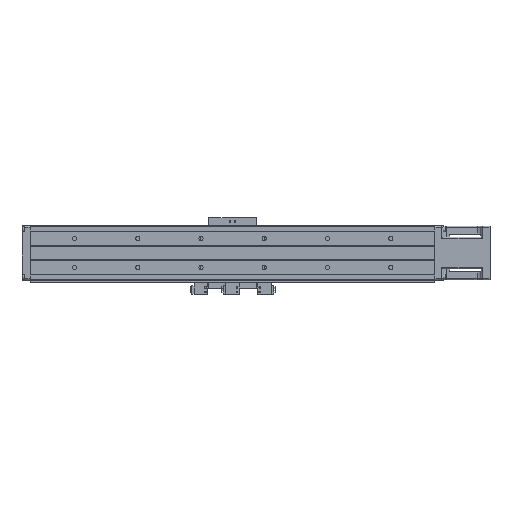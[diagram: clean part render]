
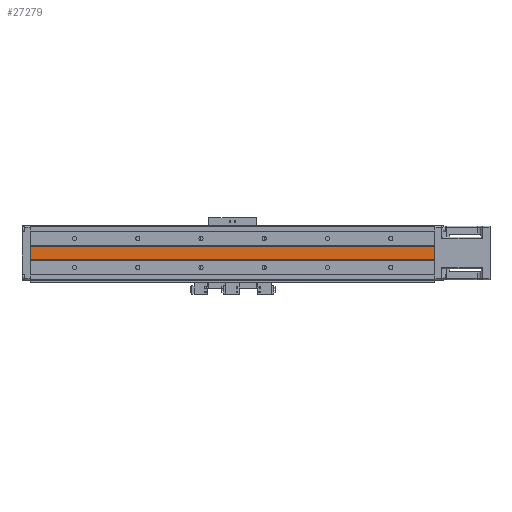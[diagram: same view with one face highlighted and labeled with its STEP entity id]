
A CAD part, front view. The second image highlights one B-rep face of the part: STEP entity #27279.
In plain terms, the highlighted planar face has unit normal (0, -1, 0).
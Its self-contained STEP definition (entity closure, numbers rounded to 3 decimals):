
#3183 = VECTOR ( 'NONE', #4184, 1000. ) ;
#4184 = DIRECTION ( 'NONE',  ( 1., 0., 0. ) ) ;
#6768 = VERTEX_POINT ( 'NONE', #12534 ) ;
#8398 = ORIENTED_EDGE ( 'NONE', *, *, #36236, .F. ) ;
#8805 = VECTOR ( 'NONE', #39546, 1000. ) ;
#9579 = AXIS2_PLACEMENT_3D ( 'NONE', #40630, #18489, #21714 ) ;
#12534 = CARTESIAN_POINT ( 'NONE',  ( 270., -31.5, -11. ) ) ;
#13093 = CARTESIAN_POINT ( 'NONE',  ( -470., -31.5, 11. ) ) ;
#14196 = CARTESIAN_POINT ( 'NONE',  ( -370., -31.5, 11. ) ) ;
#14795 = LINE ( 'NONE', #16673, #8805 ) ;
#14864 = PLANE ( 'NONE',  #9579 ) ;
#15641 = CARTESIAN_POINT ( 'NONE',  ( 270., -31.5, 11. ) ) ;
#16673 = CARTESIAN_POINT ( 'NONE',  ( -370., -31.5, -5.5 ) ) ;
#16966 = CARTESIAN_POINT ( 'NONE',  ( -370., -31.5, -11. ) ) ;
#17045 = CARTESIAN_POINT ( 'NONE',  ( -470., -31.5, -11. ) ) ;
#18489 = DIRECTION ( 'NONE',  ( 0., -1., 0. ) ) ;
#21714 = DIRECTION ( 'NONE',  ( -1., 0., 0. ) ) ;
#25959 = EDGE_CURVE ( 'NONE', #31404, #6768, #39317, .T. ) ;
#26787 = LINE ( 'NONE', #33890, #33298 ) ;
#27279 = ADVANCED_FACE ( 'NONE', ( #31186 ), #14864, .T. ) ;
#28041 = VERTEX_POINT ( 'NONE', #15641 ) ;
#28866 = ORIENTED_EDGE ( 'NONE', *, *, #37071, .F. ) ;
#29024 = ORIENTED_EDGE ( 'NONE', *, *, #36380, .T. ) ;
#29451 = VECTOR ( 'NONE', #35240, 1000. ) ;
#30594 = EDGE_LOOP ( 'NONE', ( #29024, #37452, #28866, #8398 ) ) ;
#31186 = FACE_OUTER_BOUND ( 'NONE', #30594, .T. ) ;
#31404 = VERTEX_POINT ( 'NONE', #16966 ) ;
#33298 = VECTOR ( 'NONE', #40026, 1000. ) ;
#33890 = CARTESIAN_POINT ( 'NONE',  ( 270., -31.5, 11. ) ) ;
#35122 = VERTEX_POINT ( 'NONE', #14196 ) ;
#35240 = DIRECTION ( 'NONE',  ( 1., 0., 0. ) ) ;
#36236 = EDGE_CURVE ( 'NONE', #35122, #28041, #40393, .T. ) ;
#36380 = EDGE_CURVE ( 'NONE', #35122, #31404, #14795, .T. ) ;
#37071 = EDGE_CURVE ( 'NONE', #28041, #6768, #26787, .T. ) ;
#37452 = ORIENTED_EDGE ( 'NONE', *, *, #25959, .T. ) ;
#39317 = LINE ( 'NONE', #17045, #3183 ) ;
#39546 = DIRECTION ( 'NONE',  ( 0., 0., -1. ) ) ;
#40026 = DIRECTION ( 'NONE',  ( 0., 0., -1. ) ) ;
#40393 = LINE ( 'NONE', #13093, #29451 ) ;
#40630 = CARTESIAN_POINT ( 'NONE',  ( 270., -31.5, -11. ) ) ;
